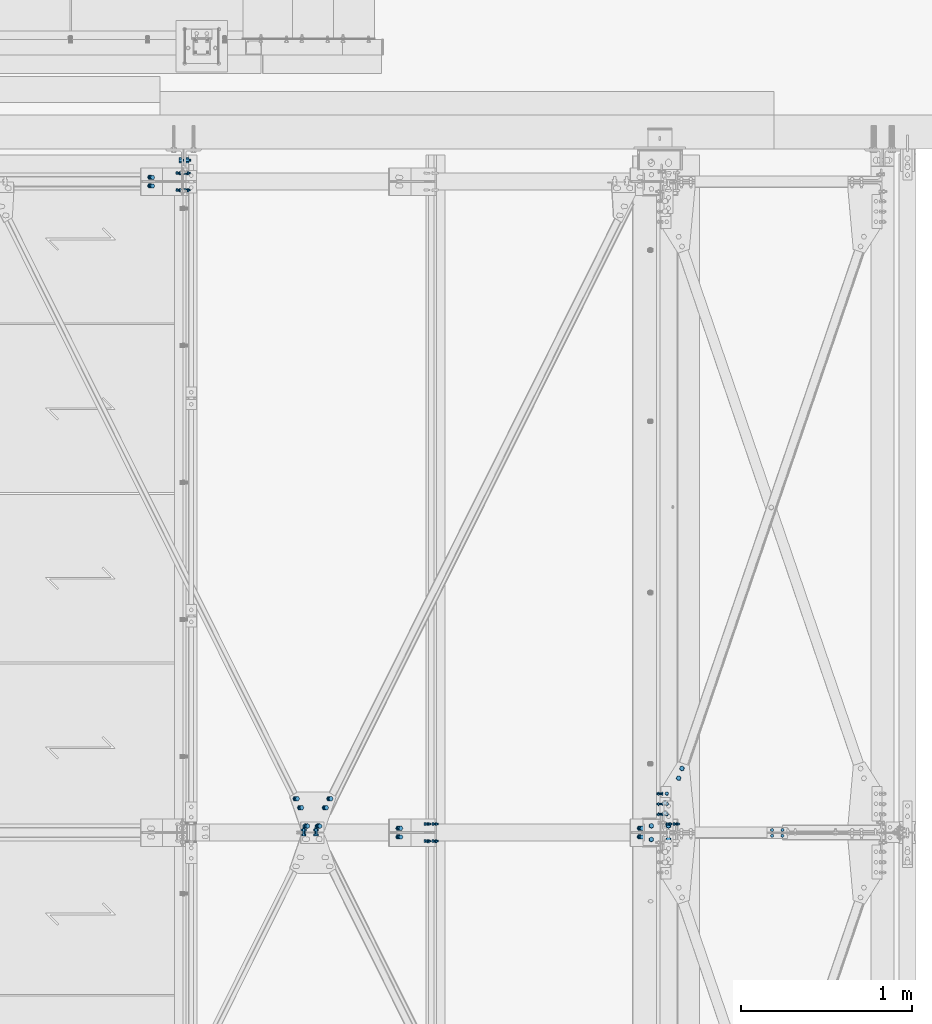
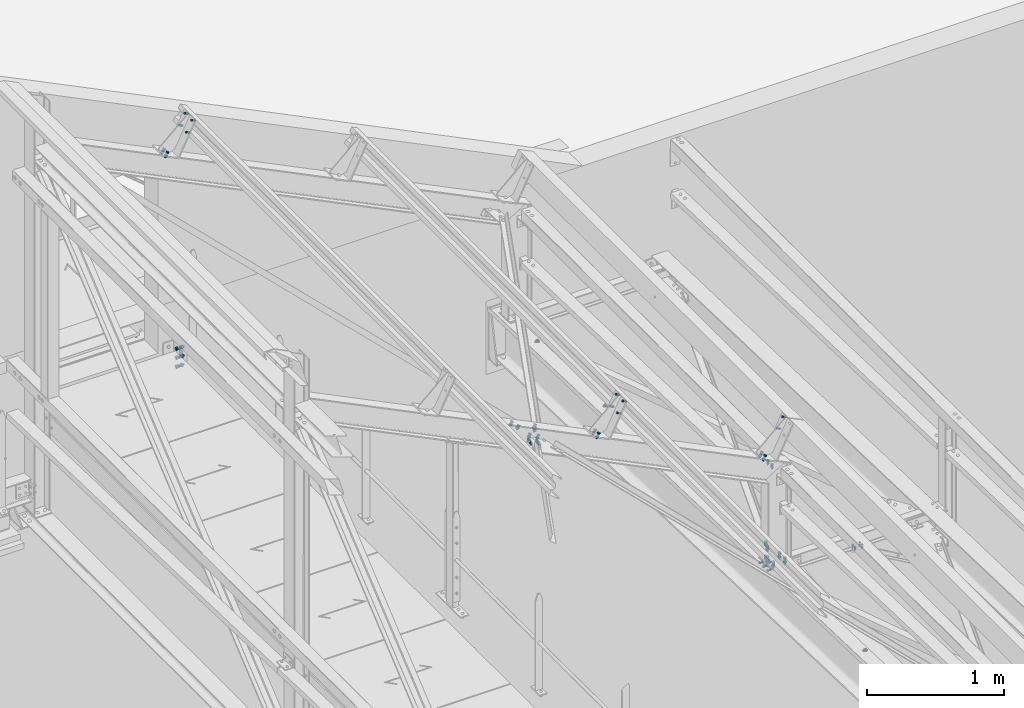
# One storey, part 196 of 362: 17 mechanical fasteners.
"""IFC2X3 building model written with IfcOpenShell, lengths in millimetres."""

from ifc_helpers import new_model, si_unit, frame, frame_2d, origin_with_axes, origin_2d_with_axis, place, context, subcontext, project, spatial, polyline, circle_curve, parameter, trimmed, segment, composite_curve, circle, outline, extrude, source, transform, mapped, material, type_object, element, save


model = new_model("IFC2X3")

# Units and contexts
model_context = context("Model", 3, precision=1e-05, world=origin_with_axes())
body_context = subcontext(model_context, "Body", "Model", "MODEL_VIEW")
ifc_project = project(units=[si_unit("LENGTHUNIT", "METRE", prefix="MILLI"), si_unit("AREAUNIT", "SQUARE_METRE"), si_unit("VOLUMEUNIT", "CUBIC_METRE"), si_unit("MASSUNIT", "GRAM", prefix="KILO"), si_unit("TIMEUNIT", "SECOND"), si_unit("PLANEANGLEUNIT", "RADIAN"), si_unit("SOLIDANGLEUNIT", "STERADIAN"), si_unit("THERMODYNAMICTEMPERATUREUNIT", "DEGREE_CELSIUS"), si_unit("LUMINOUSINTENSITYUNIT", "LUMEN")], contexts=[model_context])

# Site, building, storey
site_placement = place(None, origin_with_axes())
site = spatial("IfcSite", under=ifc_project, at=site_placement, Name="Undefined", CompositionType="ELEMENT")
building_placement = place(site_placement, origin_with_axes())
building = spatial("IfcBuilding", under=site, at=building_placement, Name="Undefined", CompositionType="ELEMENT")
storey_placement = place(building_placement, origin_with_axes())
storey = spatial("IfcBuildingStorey", under=building, at=storey_placement, Name="Undefined", CompositionType="ELEMENT", Elevation=0.0)

# Mechanical fasteners
ifc_material_1 = material(Name="8.8-SB-ZINGUE")
mechanical_fastener_type = type_object("IfcMechanicalFastenerType", Name="Bolt assembly")
shared_shape_1 = source(origin_with_axes(), body_context, "Body", "SweptSolid", [
    extrude(circle(Radius=7.0, at=origin_2d_with_axis()), frame((0.0, -0.100011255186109, 0.0), z_axis=(0.0, 1.0, 0.0), x_axis=(1.0, 0.0, 0.0)), (0.0, 0.0, 1.0), 3.1),
    extrude(circle(Radius=7.0, at=origin_2d_with_axis()), frame((0.0, -9.9, 0.0), z_axis=(0.0, 1.0, 0.0), x_axis=(1.0, 0.0, 0.0)), (0.0, 0.0, 1.0), 10.0),
    extrude(outline(polyline([(10.39230484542, 0.0), (5.19615242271, 9.00000000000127), (-5.19615242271, 9.00000000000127), (-10.39230484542, 0.0), (-5.19615242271, -9.00000000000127), (5.19615242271, -9.00000000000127), (10.39230484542, 0.0)])), frame((0.0, -17.92, 0.0), z_axis=(0.0, 1.0, 0.0), x_axis=(1.0, 0.0, 0.0)), (0.0, 0.0, 1.0), 7.92),
    extrude(circle(Radius=6.0, at=origin_2d_with_axis()), frame((0.0, -10.0000010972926, 0.0), z_axis=(0.0, 1.0, 0.0), x_axis=(1.0, 0.0, 0.0)), (0.0, 0.0, 1.0), 30.0),
    extrude(outline(polyline([(11.5008173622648, 0.0), (5.7504086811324, 9.96000000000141), (-5.7504086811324, 9.96000000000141), (-11.5008173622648, 0.0), (-5.7504086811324, -9.96000000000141), (5.7504086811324, -9.96000000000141), (11.5008173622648, 0.0)])), frame((0.0, 3.00000067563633, 0.0), z_axis=(0.0, 1.0, 0.0), x_axis=(1.0, 0.0, 0.0)), (0.0, 0.0, 1.0), 7.92),
])
mechanical_fastener_1_placement = place(storey_placement, frame((38381.4177064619, 11449.9999403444, 8807.89604207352), z_axis=(0.0, 1.0, 0.0), x_axis=(0.44122107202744, 0.0, 0.89739844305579)))
element("IfcMechanicalFastener", 1, at=mechanical_fastener_1_placement, inside=storey, type_object=mechanical_fastener_type, material=ifc_material_1, Name="Bolt assembly", NominalDiameter=12.0, NominalLength=30.0, context=body_context, shape_type="MappedRepresentation", body=[
    mapped(shared_shape_1, transform((0.0, 0.0, 0.0))),
    mapped(shared_shape_1, transform((99.9999999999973, -1.63709046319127e-11, 7.73070496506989e-12))),
])
shared_shape_2 = source(origin_with_axes(), body_context, "Body", "SweptSolid", [
    extrude(circle(Radius=7.0, at=origin_2d_with_axis()), frame((0.0, -0.100011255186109, 0.0), z_axis=(0.0, 1.0, 0.0), x_axis=(1.0, 0.0, 0.0)), (0.0, 0.0, 1.0), 6.1),
    extrude(circle(Radius=7.0, at=origin_2d_with_axis()), frame((0.0, -5.9000361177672, 0.0), z_axis=(0.0, 1.0, 0.0), x_axis=(1.0, 0.0, 0.0)), (0.0, 0.0, 1.0), 6.0),
    extrude(outline(polyline([(10.39230484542, 0.0), (5.19615242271, 9.00000000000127), (-5.19615242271, 9.00000000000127), (-10.39230484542, 0.0), (-5.19615242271, -9.00000000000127), (5.19615242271, -9.00000000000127), (10.39230484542, 0.0)])), frame((0.0, -13.9200361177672, 0.0), z_axis=(0.0, 1.0, 0.0), x_axis=(1.0, 0.0, 0.0)), (0.0, 0.0, 1.0), 7.92),
    extrude(circle(Radius=6.0, at=origin_2d_with_axis()), frame((0.0, -6.00003611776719, 0.0), z_axis=(0.0, 1.0, 0.0), x_axis=(1.0, 0.0, 0.0)), (0.0, 0.0, 1.0), 30.0),
    extrude(outline(polyline([(11.5008173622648, 0.0), (5.7504086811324, 9.96000000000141), (-5.7504086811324, 9.96000000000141), (-11.5008173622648, 0.0), (-5.7504086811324, -9.96000000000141), (5.7504086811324, -9.96000000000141), (11.5008173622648, 0.0)])), frame((0.0, 6.0, 0.0), z_axis=(0.0, 1.0, 0.0), x_axis=(1.0, 0.0, 0.0)), (0.0, 0.0, 1.0), 7.92),
])
mechanical_fastener_2_placement = place(storey_placement, frame((38370.0, 11567.8429963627, 7560.40370350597), z_axis=(0.0, -0.999506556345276, 0.031410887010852), x_axis=(-1.0, 0.0, 0.0)))
element("IfcMechanicalFastener", 2, at=mechanical_fastener_2_placement, inside=storey, type_object=mechanical_fastener_type, material=ifc_material_1, Name="Bolt assembly", NominalDiameter=12.0, NominalLength=30.0, context=body_context, shape_type="MappedRepresentation", body=[
    mapped(shared_shape_2, transform((0.0, 0.0, -60.0))),
    mapped(shared_shape_2, transform((0.0, 0.0, 0.0))),
    mapped(shared_shape_2, transform((0.0, 0.0, 60.0))),
])
shared_shape_3 = source(origin_with_axes(), body_context, "Body", "SweptSolid", [
    extrude(circle(Radius=9.0, at=origin_2d_with_axis()), frame((0.0, -0.0999426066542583, 0.0), z_axis=(0.0, 1.0, 0.0), x_axis=(1.0, 0.0, 0.0)), (0.0, 0.0, 1.0), 8.6),
    extrude(circle(Radius=9.0, at=origin_2d_with_axis()), frame((0.0, -9.9, 0.0), z_axis=(0.0, 1.0, 0.0), x_axis=(1.0, 0.0, 0.0)), (0.0, 0.0, 1.0), 10.0),
    extrude(outline(polyline([(13.85640646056, 0.0), (6.92820323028, 12.0000000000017), (-6.92820323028, 12.0000000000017), (-13.85640646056, 0.0), (-6.92820323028, -12.0000000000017), (6.92820323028, -12.0000000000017), (13.85640646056, 0.0)])), frame((0.0, -20.5600000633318, 0.0), z_axis=(0.0, 1.0, 0.0), x_axis=(1.0, 0.0, 0.0)), (0.0, 0.0, 1.0), 10.56),
    extrude(circle(Radius=8.0, at=origin_2d_with_axis()), frame((0.0, -10.0000010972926, 0.0), z_axis=(0.0, 1.0, 0.0), x_axis=(1.0, 0.0, 0.0)), (0.0, 0.0, 1.0), 40.0),
    extrude(outline(polyline([(15.3344231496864, 0.0), (7.6672115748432, 13.2800000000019), (-7.6672115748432, 13.2800000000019), (-15.3344231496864, 0.0), (-7.6672115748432, -13.2800000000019), (7.6672115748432, -13.2800000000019), (15.3344231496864, 0.0)])), frame((0.0, 8.49999994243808, 0.0), z_axis=(0.0, 1.0, 0.0), x_axis=(1.0, 0.0, 0.0)), (0.0, 0.0, 1.0), 10.56),
])
for number, where, z_axis, x_axis, name in (
    (3, (38216.9694389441, 11400.0000375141, 8654.7400725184), (0.0, 1.0, 0.0), (0.897398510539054, 0.0, -0.44122093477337), "Bolt assembly"),
    (4, (35359.6856809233, 15200.0000375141, 10059.5712548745), (0.0, 1.0, 0.0), (0.897398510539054, 0.0, -0.44122093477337), "Bolt assembly"),
    (5, (36808.5190147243, 11400.0000375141, 9347.22819841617), (0.0, 1.0, 0.0), (0.897398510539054, 0.0, -0.44122093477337), "Bolt assembly"),
):
    element("IfcMechanicalFastener", number, at=place(storey_placement, frame(where, z_axis=z_axis, x_axis=x_axis)), inside=storey, type_object=mechanical_fastener_type, material=ifc_material_1, Name=name, NominalDiameter=16.0, NominalLength=40.0, context=body_context, shape_type="MappedRepresentation", body=[
        mapped(shared_shape_3, transform((0.0, 0.0, -25.0))),
        mapped(shared_shape_3, transform((0.0, 0.0, 25.0))),
    ])
shared_shape_4 = source(origin_with_axes(), body_context, "Body", "SweptSolid", [
    extrude(circle(Radius=7.0, at=origin_2d_with_axis()), frame((0.0, -0.10007666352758, 0.0), z_axis=(0.0, 1.0, 0.0), x_axis=(1.0, 0.0, 0.0)), (0.0, 0.0, 1.0), 1.6),
    extrude(circle(Radius=7.0, at=origin_2d_with_axis()), frame((0.0, -9.9, 0.0), z_axis=(0.0, 1.0, 0.0), x_axis=(1.0, 0.0, 0.0)), (0.0, 0.0, 1.0), 10.0),
    extrude(outline(polyline([(10.39230484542, 0.0), (5.19615242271, 9.00000000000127), (-5.19615242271, 9.00000000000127), (-10.39230484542, 0.0), (-5.19615242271, -9.00000000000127), (5.19615242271, -9.00000000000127), (10.39230484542, 0.0)])), frame((0.0, -17.92, 0.0), z_axis=(0.0, 1.0, 0.0), x_axis=(1.0, 0.0, 0.0)), (0.0, 0.0, 1.0), 7.92),
    extrude(circle(Radius=6.0, at=origin_2d_with_axis()), frame((0.0, -10.0000010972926, 0.0), z_axis=(0.0, 1.0, 0.0), x_axis=(1.0, 0.0, 0.0)), (0.0, 0.0, 1.0), 30.0),
    extrude(outline(polyline([(11.5008173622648, 0.0), (5.7504086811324, 9.96000000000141), (-5.7504086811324, 9.96000000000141), (-11.5008173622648, 0.0), (-5.7504086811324, -9.96000000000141), (5.7504086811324, -9.96000000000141), (11.5008173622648, 0.0)])), frame((0.0, 1.49996853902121, 0.0), z_axis=(0.0, 1.0, 0.0), x_axis=(1.0, 0.0, 0.0)), (0.0, 0.0, 1.0), 7.92),
])
mechanical_fastener_3_placement = place(storey_placement, frame((35523.6927473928, 15200.0000596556, 10211.8298161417), z_axis=(0.0, 1.0, 0.0), x_axis=(0.44122107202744, 0.0, 0.89739844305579)))
element("IfcMechanicalFastener", 6, at=mechanical_fastener_3_placement, inside=storey, type_object=mechanical_fastener_type, material=ifc_material_1, Name="Bolt assembly", NominalDiameter=12.0, NominalLength=30.0, context=body_context, shape_type="MappedRepresentation", body=[
    mapped(shared_shape_4, transform((0.0, 0.0, -50.0))),
    mapped(shared_shape_4, transform((102.00000000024, -2.51020537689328e-10, -50.0))),
    mapped(shared_shape_4, transform((0.0, 0.0, 50.0))),
    mapped(shared_shape_4, transform((102.00000000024, -2.51020537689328e-10, 50.0))),
])
shared_shape_5 = source(origin_with_axes(), body_context, "Body", "SweptSolid", [
    extrude(circle(Radius=7.0, at=origin_2d_with_axis()), frame((0.0, -0.10007666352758, 0.0), z_axis=(0.0, 1.0, 0.0), x_axis=(1.0, 0.0, 0.0)), (0.0, 0.0, 1.0), 1.6),
    extrude(circle(Radius=7.0, at=origin_2d_with_axis()), frame((0.0, -9.9, 0.0), z_axis=(0.0, 1.0, 0.0), x_axis=(1.0, 0.0, 0.0)), (0.0, 0.0, 1.0), 10.0),
    extrude(outline(polyline([(10.39230484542, 0.0), (5.19615242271, 9.00000000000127), (-5.19615242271, 9.00000000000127), (-10.39230484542, 0.0), (-5.19615242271, -9.00000000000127), (5.19615242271, -9.00000000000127), (10.39230484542, 0.0)])), frame((0.0, -17.92, 0.0), z_axis=(0.0, 1.0, 0.0), x_axis=(1.0, 0.0, 0.0)), (0.0, 0.0, 1.0), 7.92),
    extrude(circle(Radius=6.0, at=origin_2d_with_axis()), frame((0.0, -10.0000010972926, 0.0), z_axis=(0.0, 1.0, 0.0), x_axis=(1.0, 0.0, 0.0)), (0.0, 0.0, 1.0), 30.0),
    extrude(outline(polyline([(11.5008173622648, 0.0), (5.7504086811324, 9.96000000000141), (-5.7504086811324, 9.96000000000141), (-11.5008173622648, 0.0), (-5.7504086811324, -9.96000000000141), (5.7504086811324, -9.96000000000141), (11.5008173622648, 0.0)])), frame((0.0, 1.50001896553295, 0.0), z_axis=(0.0, 1.0, 0.0), x_axis=(1.0, 0.0, 0.0)), (0.0, 0.0, 1.0), 7.92),
])
mechanical_fastener_4_placement = place(storey_placement, frame((36972.5260811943, 11400.0000596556, 9499.48675968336), z_axis=(0.0, 1.0, 0.0), x_axis=(0.44122107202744, 0.0, 0.89739844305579)))
element("IfcMechanicalFastener", 7, at=mechanical_fastener_4_placement, inside=storey, type_object=mechanical_fastener_type, material=ifc_material_1, Name="Bolt assembly", NominalDiameter=12.0, NominalLength=30.0, context=body_context, shape_type="MappedRepresentation", body=[
    mapped(shared_shape_5, transform((0.0, 0.0, -50.0))),
    mapped(shared_shape_5, transform((102.00000000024, -2.51020537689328e-10, -50.0))),
    mapped(shared_shape_5, transform((0.0, 0.0, 50.0))),
    mapped(shared_shape_5, transform((102.00000000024, -2.51020537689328e-10, 50.0))),
])
ifc_material_2 = material(Name="#_SB-8.8-ZINGUE")
shared_shape_6 = source(origin_with_axes(), body_context, "Body", "SweptSolid", [
    extrude(circle(Radius=9.0, at=origin_2d_with_axis()), frame((0.0, -4.89938005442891, 0.0), z_axis=(0.0, 1.0, 0.0), x_axis=(1.0, 0.0, 0.0)), (0.0, 0.0, 1.0), 5.0),
    extrude(circle(Radius=9.0, at=origin_2d_with_axis()), frame((0.0, -0.0993474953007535, 0.0), z_axis=(0.0, 1.0, 0.0), x_axis=(1.0, 0.0, 0.0)), (0.0, 0.0, 1.0), 6.1),
    extrude(outline(polyline([(13.85640646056, 0.0), (6.92820323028, 12.0000000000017), (-6.92820323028, 12.0000000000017), (-13.85640646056, 0.0), (-6.92820323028, -12.0000000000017), (6.92820323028, -12.0000000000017), (13.85640646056, 0.0)])), frame((0.0, -15.5593800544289, 0.0), z_axis=(0.0, 1.0, 0.0), x_axis=(1.0, 0.0, 0.0)), (0.0, 0.0, 1.0), 10.56),
    extrude(circle(Radius=8.0, at=origin_2d_with_axis()), frame((0.0, -4.99938005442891, 0.0), z_axis=(0.0, 1.0, 0.0), x_axis=(1.0, 0.0, 0.0)), (0.0, 0.0, 1.0), 30.0),
    extrude(outline(polyline([(15.3344231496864, 0.0), (7.6672115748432, 13.2800000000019), (-7.6672115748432, 13.2800000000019), (-15.3344231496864, 0.0), (-7.6672115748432, -13.2800000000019), (7.6672115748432, -13.2800000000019), (15.3344231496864, 0.0)])), frame((0.0, 6.00065250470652, 0.0), z_axis=(0.0, 1.0, 0.0), x_axis=(1.0, 0.0, 0.0)), (0.0, 0.0, 1.0), 10.56),
])
for number, where, z_axis, x_axis, name in (
    (8, (36377.1777849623, 11545.0895638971, 9447.87172981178), (-0.78486955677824, 0.484835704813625, 0.385893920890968), (0.435090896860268, 0.874605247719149, -0.213919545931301), "Bolt assembly"),
    (9, (36232.8227348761, 11545.0895647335, 9518.84624567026), (-0.78486955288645, -0.48483570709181, 0.385893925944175), (-0.435090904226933, 0.874605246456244, 0.213919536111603), "Bolt assembly"),
):
    element("IfcMechanicalFastener", number, at=place(storey_placement, frame(where, z_axis=z_axis, x_axis=x_axis)), inside=storey, type_object=mechanical_fastener_type, material=ifc_material_2, Name=name, NominalDiameter=16.0, NominalLength=30.0, context=body_context, shape_type="MappedRepresentation", body=[
        mapped(shared_shape_6, transform((0.0, 0.0, 0.0))),
        mapped(shared_shape_6, transform((60.0, 0.0, 0.0))),
    ])
shared_shape_7 = source(origin_with_axes(), body_context, "Body", "SweptSolid", [
    extrude(circle(Radius=9.0, at=origin_2d_with_axis()), frame((0.0, 5.90002706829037, 0.0), z_axis=(0.0, 1.0, 0.0), x_axis=(1.0, 0.0, 0.0)), (0.0, 0.0, 1.0), 6.1),
    extrude(circle(Radius=9.0, at=origin_2d_with_axis()), frame((0.0, 0.1, 0.0), z_axis=(0.0, 1.0, 0.0), x_axis=(1.0, 0.0, 0.0)), (0.0, 0.0, 1.0), 6.0),
    extrude(outline(polyline([(13.85640646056, 0.0), (6.92820323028, 12.0000000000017), (-6.92820323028, 12.0000000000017), (-13.85640646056, 0.0), (-6.92820323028, -12.0000000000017), (6.92820323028, -12.0000000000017), (13.85640646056, 0.0)])), frame((0.0, -10.5600019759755, 0.0), z_axis=(0.0, 1.0, 0.0), x_axis=(1.0, 0.0, 0.0)), (0.0, 0.0, 1.0), 10.56),
    extrude(circle(Radius=8.0, at=origin_2d_with_axis()), frame((0.0, 0.0, 0.0), z_axis=(0.0, 1.0, 0.0), x_axis=(1.0, 0.0, 0.0)), (0.0, 0.0, 1.0), 40.0),
    extrude(outline(polyline([(15.3344231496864, 0.0), (7.6672115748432, 13.2800000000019), (-7.6672115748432, 13.2800000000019), (-15.3344231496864, 0.0), (-7.6672115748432, -13.2800000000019), (7.6672115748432, -13.2800000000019), (15.3344231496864, 0.0)])), frame((0.0, 12.0000270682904, 0.0), z_axis=(0.0, 1.0, 0.0), x_axis=(1.0, 0.0, 0.0)), (0.0, 0.0, 1.0), 10.56),
])
mechanical_fastener_5_placement = place(storey_placement, frame((36304.9967047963, 11438.0002518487, 9483.36004369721), z_axis=(0.897398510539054, 0.0, -0.44122093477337), x_axis=(0.0, -1.0, 0.0)))
element("IfcMechanicalFastener", 10, at=mechanical_fastener_5_placement, inside=storey, type_object=mechanical_fastener_type, material=ifc_material_2, Name="Bolt assembly", NominalDiameter=16.0, NominalLength=40.0, context=body_context, shape_type="MappedRepresentation", body=[
    mapped(shared_shape_7, transform((0.0, 0.0, 40.0))),
    mapped(shared_shape_7, transform((0.0, 0.0, -40.0))),
])
shared_shape_8 = source(origin_with_axes(), body_context, "Body", "SweptSolid", [
    extrude(circle(Radius=9.0, at=origin_2d_with_axis()), frame((0.0, -2.80035671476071, 0.0), z_axis=(0.0, 1.0, 0.0), x_axis=(1.0, 0.0, 0.0)), (0.0, 0.0, 1.0), 5.6),
    extrude(circle(Radius=9.0, at=origin_2d_with_axis()), frame((0.0, 2.89989517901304, 0.0), z_axis=(0.0, 1.0, 0.0), x_axis=(1.0, 0.0, 0.0)), (0.0, 0.0, 1.0), 6.1),
    extrude(circle(Radius=9.0, at=origin_2d_with_axis()), frame((0.0, -8.89990143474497, 0.0), z_axis=(0.0, 1.0, 0.0), x_axis=(1.0, 0.0, 0.0)), (0.0, 0.0, 1.0), 6.0),
    extrude(outline(polyline([(13.85640646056, 0.0), (6.92820323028, 12.0000000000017), (-6.92820323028, 12.0000000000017), (-13.85640646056, 0.0), (-6.92820323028, -12.0000000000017), (6.92820323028, -12.0000000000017), (13.85640646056, 0.0)])), frame((0.0, -19.559901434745, 0.0), z_axis=(0.0, 1.0, 0.0), x_axis=(1.0, 0.0, 0.0)), (0.0, 0.0, 1.0), 10.56),
    extrude(circle(Radius=8.0, at=origin_2d_with_axis()), frame((0.0, -8.99990143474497, 0.0), z_axis=(0.0, 1.0, 0.0), x_axis=(1.0, 0.0, 0.0)), (0.0, 0.0, 1.0), 40.0),
    extrude(outline(polyline([(15.3344231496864, 0.0), (7.6672115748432, 13.2800000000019), (-7.6672115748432, 13.2800000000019), (-15.3344231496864, 0.0), (-7.6672115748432, -13.2800000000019), (7.6672115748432, -13.2800000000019), (15.3344231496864, 0.0)])), frame((0.0, 8.9999337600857, 0.0), z_axis=(0.0, 1.0, 0.0), x_axis=(1.0, 0.0, 0.0)), (0.0, 0.0, 1.0), 10.56),
])
mechanical_fastener_6_placement = place(storey_placement, frame((36286.9066199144, 11400.0003572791, 9446.56668087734), z_axis=(-0.897398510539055, -1.29999898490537e-08, 0.441220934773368), x_axis=(0.44122107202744, 0.0, 0.89739844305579)))
element("IfcMechanicalFastener", 11, at=mechanical_fastener_6_placement, inside=storey, type_object=mechanical_fastener_type, material=ifc_material_2, Name="Bolt assembly", NominalDiameter=16.0, NominalLength=40.0, context=body_context, shape_type="MappedRepresentation", body=[
    mapped(shared_shape_8, transform((0.0, 0.0, 40.0))),
    mapped(shared_shape_8, transform((0.0, 0.0, -40.0))),
])
shared_shape_9 = source(origin_with_axes(), body_context, "Body", "SweptSolid", [
    extrude(circle(Radius=7.0, at=origin_2d_with_axis()), frame((0.0, -3.89999843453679, 0.0), z_axis=(0.0, 1.0, 0.0), x_axis=(1.0, 0.0, 0.0)), (0.0, 0.0, 1.0), 4.0),
    extrude(outline(composite_curve([segment(polyline([(-7.0, 7.0), (7.0, 7.0)]), True, "CONTINUOUS"), segment(trimmed(circle_curve(frame_2d((7.0, 0.0), x_axis=(0.0, 1.0)), 7.0), [parameter(0.0)], [parameter(3.14159265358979)], False, "PARAMETER"), True, "CONTINUOUS"), segment(polyline([(7.0, -7.0), (-7.0, -7.0)]), True, "CONTINUOUS"), segment(trimmed(circle_curve(frame_2d((-7.0, 0.0), x_axis=(0.0, -1.0)), 7.0), [parameter(0.0)], [parameter(3.14159265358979)], False, "PARAMETER"), True, "DISCONTINUOUS")], self_intersect=False)), frame((0.0, -0.100011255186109, 0.0), z_axis=(0.0, 1.0, 0.0), x_axis=(1.0, 0.0, 0.0)), (0.0, 0.0, 1.0), 10.1),
    extrude(outline(polyline([(10.39230484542, 0.0), (5.19615242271, 9.00000000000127), (-5.19615242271, 9.00000000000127), (-10.39230484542, 0.0), (-5.19615242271, -9.00000000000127), (5.19615242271, -9.00000000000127), (10.39230484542, 0.0)])), frame((0.0, -11.9199984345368, 0.0), z_axis=(0.0, 1.0, 0.0), x_axis=(1.0, 0.0, 0.0)), (0.0, 0.0, 1.0), 7.92),
    extrude(circle(Radius=6.0, at=origin_2d_with_axis()), frame((0.0, -3.99999923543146, 0.0), z_axis=(0.0, 1.0, 0.0), x_axis=(1.0, 0.0, 0.0)), (0.0, 0.0, 1.0), 40.0),
    extrude(circle(Radius=10.8, at=origin_2d_with_axis()), frame((0.0, 10.0000000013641, 0.0), z_axis=(0.0, 1.0, 0.0), x_axis=(1.0, 0.0, 0.0)), (0.0, 0.0, 1.0), 3.96),
    extrude(outline(polyline([(11.5008173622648, 0.0), (5.7504086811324, 9.96000000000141), (-5.7504086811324, 9.96000000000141), (-11.5008173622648, 0.0), (-5.7504086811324, -9.96000000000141), (5.7504086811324, -9.96000000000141), (11.5008173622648, 0.0)])), frame((0.0, 13.96, 0.0), z_axis=(0.0, 1.0, 0.0), x_axis=(1.0, 0.0, 0.0)), (0.0, 0.0, 1.0), 7.92),
])
mechanical_fastener_7_placement = place(storey_placement, frame((38360.0, 11573.5, 8450.0), z_axis=(1.0, 0.0, 0.0), x_axis=(0.0, -1.0, 0.0)))
element("IfcMechanicalFastener", 12, at=mechanical_fastener_7_placement, inside=storey, type_object=mechanical_fastener_type, material=ifc_material_1, Name="Bolt assembly", NominalDiameter=12.0, NominalLength=40.0, context=body_context, shape_type="MappedRepresentation", body=[
    mapped(shared_shape_9, transform((0.0, 0.0, 0.0))),
    mapped(shared_shape_9, transform((60.0, 0.0, 0.0))),
])
shared_shape_10 = source(origin_with_axes(), body_context, "Body", "SweptSolid", [
    extrude(circle(Radius=9.0, at=origin_2d_with_axis()), frame((0.0, -0.100011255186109, 0.0), z_axis=(0.0, 1.0, 0.0), x_axis=(1.0, 0.0, 0.0)), (0.0, 0.0, 1.0), 14.7),
    extrude(circle(Radius=9.0, at=origin_2d_with_axis()), frame((0.0, -9.9, 0.0), z_axis=(0.0, 1.0, 0.0), x_axis=(1.0, 0.0, 0.0)), (0.0, 0.0, 1.0), 10.0),
    extrude(outline(polyline([(13.85640646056, 0.0), (6.92820323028, 12.0000000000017), (-6.92820323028, 12.0000000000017), (-13.85640646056, 0.0), (-6.92820323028, -12.0000000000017), (6.92820323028, -12.0000000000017), (13.85640646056, 0.0)])), frame((0.0, -20.5600000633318, 0.0), z_axis=(0.0, 1.0, 0.0), x_axis=(1.0, 0.0, 0.0)), (0.0, 0.0, 1.0), 10.56),
    extrude(circle(Radius=8.0, at=origin_2d_with_axis()), frame((0.0, -10.0000010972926, 0.0), z_axis=(0.0, 1.0, 0.0), x_axis=(1.0, 0.0, 0.0)), (0.0, 0.0, 1.0), 50.0),
    extrude(outline(polyline([(15.3344231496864, 0.0), (7.6672115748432, 13.2800000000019), (-7.6672115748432, 13.2800000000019), (-15.3344231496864, 0.0), (-7.6672115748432, -13.2800000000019), (7.6672115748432, -13.2800000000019), (15.3344231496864, 0.0)])), frame((0.0, 14.5999903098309, 0.0), z_axis=(0.0, 1.0, 0.0), x_axis=(1.0, 0.0, 0.0)), (0.0, 0.0, 1.0), 10.56),
])
mechanical_fastener_8_placement = place(storey_placement, frame((38330.0, 11359.7053134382, 7693.00737292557), z_axis=(-1.0, 0.0, 0.0), x_axis=(3.14103090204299e-11, 0.999506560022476, -0.0314107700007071)))
element("IfcMechanicalFastener", 13, at=mechanical_fastener_8_placement, inside=storey, type_object=mechanical_fastener_type, material=ifc_material_1, Name="Bolt assembly", NominalDiameter=16.0, NominalLength=50.0, context=body_context, shape_type="MappedRepresentation", body=[
    mapped(shared_shape_10, transform((0.0, 0.0, -50.0))),
    mapped(shared_shape_10, transform((79.9999999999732, 9.09494701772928e-13, -50.0))),
    mapped(shared_shape_10, transform((0.0, 0.0, 50.0))),
    mapped(shared_shape_10, transform((79.9999999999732, 9.09494701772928e-13, 50.0))),
])
ifc_material_3 = material(Name="6.8")
shared_shape_11 = source(origin_with_axes(), body_context, "Body", "SweptSolid", [
    extrude(circle(Radius=6.0, at=origin_2d_with_axis()), frame((0.0, -6.19999893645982, 0.0), z_axis=(0.0, 1.0, 0.0), x_axis=(1.0, 0.0, 0.0)), (0.0, 0.0, 1.0), 6.3),
    extrude(circle(Radius=6.0, at=origin_2d_with_axis()), frame((0.0, -0.100011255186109, 0.0), z_axis=(0.0, 1.0, 0.0), x_axis=(1.0, 0.0, 0.0)), (0.0, 0.0, 1.0), 6.1),
    extrude(outline(polyline([(9.81495457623, 0.0), (4.907477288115, 8.5000000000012), (-4.907477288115, 8.5000000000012), (-9.81495457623, 0.0), (-4.907477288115, -8.5000000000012), (4.907477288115, -8.5000000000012), (9.81495457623, 0.0)])), frame((0.0, -13.7999989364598, 0.0), z_axis=(0.0, 1.0, 0.0), x_axis=(1.0, 0.0, 0.0)), (0.0, 0.0, 1.0), 7.5),
    extrude(circle(Radius=5.0, at=origin_2d_with_axis()), frame((0.0, -6.29999893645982, 0.0), z_axis=(0.0, 1.0, 0.0), x_axis=(1.0, 0.0, 0.0)), (0.0, 0.0, 1.0), 30.0),
    extrude(outline(polyline([(9.23760430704, 0.0), (4.61880215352, 8.00000000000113), (-4.61880215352, 8.00000000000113), (-9.23760430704, 0.0), (-4.61880215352, -8.00000000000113), (4.61880215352, -8.00000000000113), (9.23760430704, 0.0)])), frame((0.0, 6.0, 0.0), z_axis=(0.0, 1.0, 0.0), x_axis=(1.0, 0.0, 0.0)), (0.0, 0.0, 1.0), 8.4),
])
mechanical_fastener_9_placement = place(storey_placement, frame((39015.0, 11381.1237421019, 7572.2744550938), z_axis=(-1.0, 0.0, 0.0), x_axis=(3.14103090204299e-11, 0.999506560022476, -0.0314107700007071)))
element("IfcMechanicalFastener", 14, at=mechanical_fastener_9_placement, inside=storey, type_object=mechanical_fastener_type, material=ifc_material_3, Name="Bolt assembly", NominalDiameter=10.0, NominalLength=30.0, context=body_context, shape_type="MappedRepresentation", body=[
    mapped(shared_shape_11, transform((0.0, 0.0, -30.0))),
    mapped(shared_shape_11, transform((33.9999999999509, -3.27418092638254e-11, -30.0))),
    mapped(shared_shape_11, transform((0.0, 0.0, 30.0))),
    mapped(shared_shape_11, transform((33.9999999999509, -3.27418092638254e-11, 30.0))),
])
shared_shape_12 = source(origin_with_axes(), body_context, "Body", "SweptSolid", [
    extrude(circle(Radius=9.0, at=origin_2d_with_axis()), frame((0.0, -8.89683237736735, 0.0), z_axis=(0.0, 1.0, 0.0), x_axis=(1.0, 0.0, 0.0)), (0.0, 0.0, 1.0), 6.0),
    extrude(circle(Radius=9.0, at=origin_2d_with_axis()), frame((0.0, -3.09999932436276, 0.0), z_axis=(0.0, 1.0, 0.0), x_axis=(1.0, 0.0, 0.0)), (0.0, 0.0, 1.0), 6.1),
    extrude(outline(polyline([(13.85640646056, 0.0), (6.92820323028, 12.0000000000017), (-6.92820323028, 12.0000000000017), (-13.85640646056, 0.0), (-6.92820323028, -12.0000000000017), (6.92820323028, -12.0000000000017), (13.85640646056, 0.0)])), frame((0.0, -19.5568323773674, 0.0), z_axis=(0.0, 1.0, 0.0), x_axis=(1.0, 0.0, 0.0)), (0.0, 0.0, 1.0), 10.56),
    extrude(circle(Radius=8.0, at=origin_2d_with_axis()), frame((0.0, -8.99683237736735, 0.0), z_axis=(0.0, 1.0, 0.0), x_axis=(1.0, 0.0, 0.0)), (0.0, 0.0, 1.0), 40.0),
    extrude(outline(polyline([(15.3344231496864, 0.0), (7.6672115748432, 13.2800000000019), (-7.6672115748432, 13.2800000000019), (-15.3344231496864, 0.0), (-7.6672115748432, -13.2800000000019), (7.6672115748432, -13.2800000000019), (15.3344231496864, 0.0)])), frame((0.0, 3.00000067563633, 0.0), z_axis=(0.0, 1.0, 0.0), x_axis=(1.0, 0.0, 0.0)), (0.0, 0.0, 1.0), 10.56),
])
mechanical_fastener_10_placement = place(storey_placement, frame((38439.2699623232, 11717.4247824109, 7558.70436787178), z_axis=(-0.946212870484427, 0.323385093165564, -0.0101629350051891), x_axis=(0.323545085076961, 0.945745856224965, -0.0297212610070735)))
element("IfcMechanicalFastener", 15, at=mechanical_fastener_10_placement, inside=storey, type_object=mechanical_fastener_type, material=ifc_material_1, Name="Bolt assembly", NominalDiameter=16.0, NominalLength=40.0, context=body_context, shape_type="MappedRepresentation", body=[
    mapped(shared_shape_12, transform((0.0, 0.0, 0.0))),
    mapped(shared_shape_12, transform((60.0, 0.0, 0.0))),
])
shared_shape_13 = source(origin_with_axes(), body_context, "Body", "SweptSolid", [
    extrude(circle(Radius=7.0, at=origin_2d_with_axis()), frame((0.0, -4.79999988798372, 0.0), z_axis=(0.0, 1.0, 0.0), x_axis=(1.0, 0.0, 0.0)), (0.0, 0.0, 1.0), 9.5),
    extrude(circle(Radius=7.0, at=origin_2d_with_axis()), frame((0.0, -10.9000000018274, 0.0), z_axis=(0.0, 1.0, 0.0), x_axis=(1.0, 0.0, 0.0)), (0.0, 0.0, 1.0), 6.0),
    extrude(outline(polyline([(10.39230484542, 0.0), (5.19615242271, 9.00000000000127), (-5.19615242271, 9.00000000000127), (-10.39230484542, 0.0), (-5.19615242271, -9.00000000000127), (5.19615242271, -9.00000000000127), (10.39230484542, 0.0)])), frame((0.0, -18.9200000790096, 0.0), z_axis=(0.0, 1.0, 0.0), x_axis=(1.0, 0.0, 0.0)), (0.0, 0.0, 1.0), 7.92),
    extrude(circle(Radius=6.0, at=origin_2d_with_axis()), frame((0.0, -11.0000000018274, 0.0), z_axis=(0.0, 1.0, 0.0), x_axis=(1.0, 0.0, 0.0)), (0.0, 0.0, 1.0), 30.0),
    extrude(outline(polyline([(11.5008173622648, 0.0), (5.7504086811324, 9.96000000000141), (-5.7504086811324, 9.96000000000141), (-11.5008173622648, 0.0), (-5.7504086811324, -9.96000000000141), (5.7504086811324, -9.96000000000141), (11.5008173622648, 0.0)])), frame((0.0, 4.69999973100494, 0.0), z_axis=(0.0, 1.0, 0.0), x_axis=(1.0, 0.0, 0.0)), (0.0, 0.0, 1.0), 7.92),
])
mechanical_fastener_11_placement = place(storey_placement, frame((38329.9999999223, 11566.7436197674, 7525.4209738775), z_axis=(0.0, -0.999506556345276, 0.031410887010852), x_axis=(7.58071938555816e-11, 0.0314107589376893, 0.999506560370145)))
element("IfcMechanicalFastener", 16, at=mechanical_fastener_11_placement, inside=storey, type_object=mechanical_fastener_type, material=ifc_material_1, Name="Bolt assembly", NominalDiameter=12.0, NominalLength=30.0, context=body_context, shape_type="MappedRepresentation", body=[
    mapped(shared_shape_13, transform((0.0, 0.0, -60.0))),
    mapped(shared_shape_13, transform((0.0, 0.0, 0.0))),
    mapped(shared_shape_13, transform((0.0, 0.0, 60.0))),
])
ifc_material_4 = material(Name="HR10.9")
shared_shape_14 = source(origin_with_axes(), body_context, "Body", "SweptSolid", [
    extrude(outline(composite_curve([segment(polyline([(-9.0, 9.0), (9.0, 9.0)]), True, "CONTINUOUS"), segment(trimmed(circle_curve(frame_2d((9.0, 0.0), x_axis=(0.0, 1.0)), 9.0), [parameter(0.0)], [parameter(3.14159265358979)], False, "PARAMETER"), True, "CONTINUOUS"), segment(polyline([(9.0, -9.0), (-9.0, -9.0)]), True, "CONTINUOUS"), segment(trimmed(circle_curve(frame_2d((-9.0, 0.0), x_axis=(0.0, -1.0)), 9.0), [parameter(0.0)], [parameter(3.14159265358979)], False, "PARAMETER"), True, "DISCONTINUOUS")], self_intersect=False)), frame((0.0, -14.899999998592, 0.0), z_axis=(0.0, 1.0, 0.0), x_axis=(1.0, 0.0, 0.0)), (0.0, 0.0, 1.0), 10.0),
    extrude(circle(Radius=9.0, at=origin_2d_with_axis()), frame((0.0, 0.899999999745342, 0.0), z_axis=(0.0, 1.0, 0.0), x_axis=(1.0, 0.0, 0.0)), (0.0, 0.0, 1.0), 10.1),
    extrude(outline(polyline([(15.58845726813, 0.0), (7.794228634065, 13.5000000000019), (-7.794228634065, 13.5000000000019), (-15.58845726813, 0.0), (-7.794228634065, -13.5000000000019), (7.794228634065, -13.5000000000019), (15.58845726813, 0.0)])), frame((0.0, -29.0, 0.0), z_axis=(0.0, 1.0, 0.0), x_axis=(1.0, 0.0, 0.0)), (0.0, 0.0, 1.0), 10.0),
    extrude(circle(Radius=8.0, at=origin_2d_with_axis()), frame((0.0, -18.9999974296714, 0.0), z_axis=(0.0, 1.0, 0.0), x_axis=(1.0, 0.0, 0.0)), (0.0, 0.0, 1.0), 60.0),
    extrude(circle(Radius=15.0, at=origin_2d_with_axis()), frame((0.0, -18.9999974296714, 0.0), z_axis=(0.0, 1.0, 0.0), x_axis=(1.0, 0.0, 0.0)), (0.0, 0.0, 1.0), 4.0),
    extrude(circle(Radius=15.0, at=origin_2d_with_axis()), frame((0.0, 11.0000000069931, 0.0), z_axis=(0.0, 1.0, 0.0), x_axis=(1.0, 0.0, 0.0)), (0.0, 0.0, 1.0), 4.0),
    extrude(outline(polyline([(15.58845726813, 0.0), (7.794228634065, 13.5000000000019), (-7.794228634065, 13.5000000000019), (-15.58845726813, 0.0), (-7.794228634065, -13.5000000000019), (7.794228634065, -13.5000000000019), (15.58845726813, 0.0)])), frame((0.0, 15.0000000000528, 0.0), z_axis=(0.0, 1.0, 0.0), x_axis=(1.0, 0.0, 0.0)), (0.0, 0.0, 1.0), 15.0),
])
mechanical_fastener_12_placement = place(storey_placement, frame((35551.4917140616, 15325.0000000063, 8090.00437165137), z_axis=(0.0, 0.0, -1.0), x_axis=(0.0, 1.0, 0.0)))
element("IfcMechanicalFastener", 17, at=mechanical_fastener_12_placement, inside=storey, type_object=mechanical_fastener_type, material=ifc_material_4, Name="Bolt assembly", NominalDiameter=16.0, NominalLength=60.0, context=body_context, shape_type="MappedRepresentation", body=[
    mapped(shared_shape_14, transform((0.0, 0.0, -80.0))),
    mapped(shared_shape_14, transform((0.0, 0.0, 0.0))),
    mapped(shared_shape_14, transform((0.0, 0.0, 80.0))),
])

save(model, "model.ifc")
